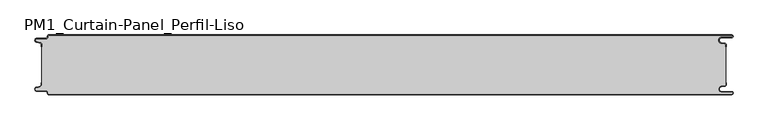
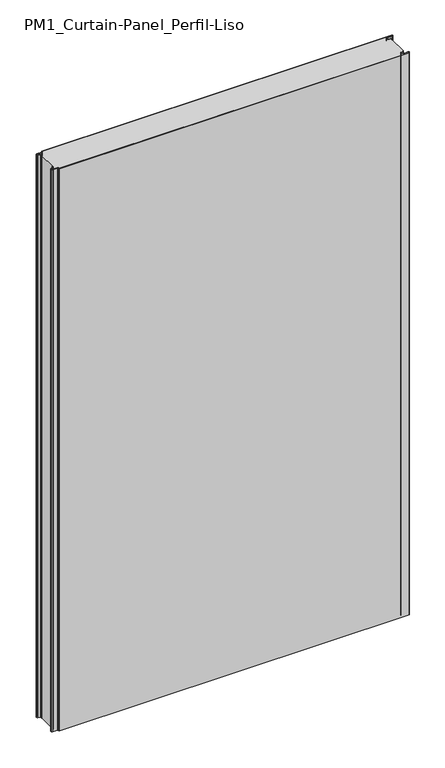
"""IFC4 building model written with IfcOpenShell, lengths in millimetres: plate geometry, PM1_Curtain-Panel_Perfil-Liso : ACH_PM1_Panel-Acústico-Sectorización_100M."""

import ifcopenshell
import ifcopenshell.guid

model = None  # the IFC model being written
_history = None  # IfcOwnerHistory: only IFC2X3 demands one
_inside = {}  # id of a spatial element -> (the spatial element, [elements in it])
_under = {}  # id of a project, library or spatial element -> (it, [spatial elements below it])
_declared = {}  # id of a project -> (the project, [libraries it declares])
_typed = {}  # id of a type object -> (the type object, [elements of that type])
_made_of = {}  # id of a material, layer set ... -> (it, [elements and type objects made of it])


def new_model(schema):
    """Start an empty IFC model of exactly this schema.

    Asked for "IFC4X3", IfcOpenShell would pick the latest addendum, in which some entities
    have other attributes; the version numbers below select the first issue.
    IFC2X3 requires an IfcOwnerHistory on every rooted entity: one is made here for all.
    """
    global model, _history
    if schema == "IFC4X3":
        model = ifcopenshell.file(schema_version=(4, 3, 0, 0))
    else:
        model = ifcopenshell.file(schema=schema)
    _inside.clear()
    _under.clear()
    _declared.clear()
    _typed.clear()
    _made_of.clear()
    _history = None
    if model.schema == "IFC2X3":
        org = make("IfcOrganization", Name="unknown")
        user = make(
            "IfcPersonAndOrganization",
            ThePerson=make("IfcPerson", FamilyName="unknown"),
            TheOrganization=org,
        )
        app = make(
            "IfcApplication",
            ApplicationDeveloper=org,
            Version="unknown",
            ApplicationFullName="unknown",
            ApplicationIdentifier="unknown",
        )
        _history = make(
            "IfcOwnerHistory",
            OwningUser=user,
            OwningApplication=app,
            ChangeAction="ADDED",
            CreationDate=0,
        )
    return model


def make(cls, **values):
    """One entity of the class cls with the attributes given. An attribute that is None is left unset."""
    return model.create_entity(
        cls, **{name: value for name, value in values.items() if value is not None}
    )


def rooted(cls, **values):
    """An entity with a GlobalId (a new one), such as an element, a storey or a relation."""
    return make(cls, GlobalId=ifcopenshell.guid.new(), OwnerHistory=_history, **values)


def si_unit(unit_type, name, prefix=None):
    """IfcSIUnit, for example si_unit("LENGTHUNIT", "METRE", prefix="MILLI")."""
    return make("IfcSIUnit", UnitType=unit_type, Prefix=prefix, Name=name)


def assignment(units):
    """IfcUnitAssignment: the units of a project."""
    return None if units is None else make("IfcUnitAssignment", Units=units)


def point(xyz):
    """IfcCartesianPoint."""
    return None if xyz is None else make("IfcCartesianPoint", Coordinates=xyz)


def direction(xyz):
    """IfcDirection."""
    return None if xyz is None else make("IfcDirection", DirectionRatios=xyz)


def frame(location, z_axis=None, x_axis=None):
    """IfcAxis2Placement3D, a coordinate frame: its origin and axes. An axis left out is left unset."""
    return make(
        "IfcAxis2Placement3D",
        Location=point(location),
        Axis=direction(z_axis),
        RefDirection=direction(x_axis),
    )


def frame_2d(location, x_axis=None):
    """IfcAxis2Placement2D, a coordinate frame in the plane: its origin and x axis."""
    return make(
        "IfcAxis2Placement2D", Location=point(location), RefDirection=direction(x_axis)
    )


def origin():
    """The frame at (0, 0, 0) with its axes left unset."""
    return frame((0.0, 0.0, 0.0))


def origin_with_axes():
    """The frame at (0, 0, 0) with the z axis (0, 0, 1) and the x axis (1, 0, 0) written out."""
    return frame((0.0, 0.0, 0.0), z_axis=(0.0, 0.0, 1.0), x_axis=(1.0, 0.0, 0.0))


def place(relative_to, where):
    """IfcLocalPlacement: puts the frame where relative to a parent placement (None: the world)."""
    return make(
        "IfcLocalPlacement", PlacementRelTo=relative_to, RelativePlacement=where
    )


def context(
    kind, dimensions, precision=None, world=None, true_north=None, identifier=None
):
    """IfcGeometricRepresentationContext, for example the 3D "Model" context."""
    return make(
        "IfcGeometricRepresentationContext",
        ContextIdentifier=identifier,
        ContextType=kind,
        CoordinateSpaceDimension=dimensions,
        Precision=precision,
        WorldCoordinateSystem=world,
        TrueNorth=true_north,
    )


def project(units=None, contexts=None):
    """IfcProject with its units and contexts."""
    return rooted(
        "IfcProject",
        Name="project",
        RepresentationContexts=contexts,
        UnitsInContext=assignment(units),
    )


def spatial(cls, under=None, at=None, **own):
    """A site, building, storey or space (cls), placed at a placement, below another one or the project."""
    s = rooted(cls, ObjectPlacement=at, **own)
    if under is not None:
        _under.setdefault(under.id(), (under, []))[1].append(s)
    return s


def polyline(points):
    """IfcPolyline through the points."""
    return make("IfcPolyline", Points=[point(p) for p in points])


def circle_curve(where, radius):
    """IfcCircle in the frame where."""
    return make("IfcCircle", Position=where, Radius=radius)


def trimmed(basis, trim1, trim2, sense, master):
    """IfcTrimmedCurve: the piece of a basis curve between two trims."""
    return make(
        "IfcTrimmedCurve",
        BasisCurve=basis,
        Trim1=trim1,
        Trim2=trim2,
        SenseAgreement=sense,
        MasterRepresentation=master,
    )


def segment(curve, same_sense, transition):
    """IfcCompositeCurveSegment."""
    return make(
        "IfcCompositeCurveSegment",
        Transition=transition,
        SameSense=same_sense,
        ParentCurve=curve,
    )


def composite_curve(segments, self_intersect=None):
    """IfcCompositeCurve: segments joined end to end."""
    return make("IfcCompositeCurve", Segments=segments, SelfIntersect=self_intersect)


def outline(outer, holes=None, kind="AREA"):
    """IfcArbitraryClosedProfileDef: a profile drawn as a closed curve; with holes, ...WithVoids."""
    if holes is None:
        return make("IfcArbitraryClosedProfileDef", ProfileType=kind, OuterCurve=outer)
    return make(
        "IfcArbitraryProfileDefWithVoids",
        ProfileType=kind,
        OuterCurve=outer,
        InnerCurves=holes,
    )


def extrude(swept, where, along, depth):
    """IfcExtrudedAreaSolid: the profile swept, set in the frame where, extruded along a direction by depth."""
    return make(
        "IfcExtrudedAreaSolid",
        SweptArea=swept,
        Position=where,
        ExtrudedDirection=direction(along),
        Depth=depth,
    )


def shape(context_of_items, identifier, shape_type, items):
    """IfcShapeRepresentation: the items that make up one representation, for example the "Body"."""
    return make(
        "IfcShapeRepresentation",
        ContextOfItems=context_of_items,
        RepresentationIdentifier=identifier,
        RepresentationType=shape_type,
        Items=items,
    )


def source(mapping_origin, context_of_items, identifier, shape_type, items):
    """IfcRepresentationMap: a shape defined once, which mapped items show again and again."""
    return make(
        "IfcRepresentationMap",
        MappingOrigin=mapping_origin,
        MappedRepresentation=shape(context_of_items, identifier, shape_type, items),
    )


def transform(
    local_origin,
    x_axis=None,
    y_axis=None,
    z_axis=None,
    scale=None,
    scale2=None,
    scale3=None,
    uniform=True,
):
    """IfcCartesianTransformationOperator3D, or its non-uniform kind. x_axis, y_axis, z_axis: its Axis1, 2, 3."""
    if uniform:
        return make(
            "IfcCartesianTransformationOperator3D",
            Axis1=direction(x_axis),
            Axis2=direction(y_axis),
            LocalOrigin=point(local_origin),
            Scale=scale,
            Axis3=direction(z_axis),
        )
    return make(
        "IfcCartesianTransformationOperator3DnonUniform",
        Axis1=direction(x_axis),
        Axis2=direction(y_axis),
        LocalOrigin=point(local_origin),
        Scale=scale,
        Axis3=direction(z_axis),
        Scale2=scale2,
        Scale3=scale3,
    )


def mapped(mapping_source, mapping_target):
    """IfcMappedItem: shows the shape of a source again, moved by a transform."""
    return make(
        "IfcMappedItem", MappingSource=mapping_source, MappingTarget=mapping_target
    )


def made_of(thing, what):
    """Note that an element or type object is made of a material, layer set ...; save() writes the relation."""
    if what is not None:
        _made_of.setdefault(what.id(), (what, []))[1].append(thing)
    return thing


def element(
    cls,
    number,
    at=None,
    inside=None,
    cuts=None,
    type_object=None,
    material=None,
    context=None,
    identifier="Body",
    shape_type=None,
    held_by="IfcProductDefinitionShape",
    body=None,
    shapes=None,
    **own,
):
    """One element of the class cls, such as IfcWall. Its Tag is "e" and its number.

    at: its placement. inside: the storey or other place that contains it. cuts: it is an
    opening in that element (IfcRelVoidsElement). A single representation is given by context,
    identifier, shape_type and body (its items); several are given by shapes. held_by: the class
    of the entity that holds the representations. save() writes the other relations.
    """
    e = rooted(cls, Tag="e%d" % number, ObjectPlacement=at, **own)
    if body is not None:
        shapes = [shape(context, identifier, shape_type, body)]
    if shapes is not None:
        e.Representation = make(held_by, Representations=shapes)
    if inside is not None:
        _inside.setdefault(inside.id(), (inside, []))[1].append(e)
    if cuts is not None:
        rooted(
            "IfcRelVoidsElement", RelatingBuildingElement=cuts, RelatedOpeningElement=e
        )
    if type_object is not None:
        _typed.setdefault(type_object.id(), (type_object, []))[1].append(e)
    return made_of(e, material)


def aggregate(whole, parts):
    """IfcRelAggregates: a whole, such as a stair, and the parts it consists of."""
    return rooted("IfcRelAggregates", RelatingObject=whole, RelatedObjects=parts)


def save(model, path):
    """Write the relations noted so far, then the file.

    IfcRelAggregates (storeys below a building ...), IfcRelContainedInSpatialStructure (elements
    in a storey), IfcRelDefinesByType, IfcRelAssociatesMaterial and IfcRelDeclares: one each for
    every whole, place, type object, material and project.
    """
    for whole, parts in _under.values():
        aggregate(whole, parts)
    for where, things in _inside.values():
        rooted(
            "IfcRelContainedInSpatialStructure",
            RelatedElements=things,
            RelatingStructure=where,
        )
    for kind, things in _typed.values():
        rooted("IfcRelDefinesByType", RelatedObjects=things, RelatingType=kind)
    for what, things in _made_of.values():
        rooted("IfcRelAssociatesMaterial", RelatedObjects=things, RelatingMaterial=what)
    for by, libraries in _declared.values():
        rooted("IfcRelDeclares", RelatingContext=by, RelatedDefinitions=libraries)
    model.write(path)


def plane_surface(at):
    """IfcPlane: the flat surface through the origin of the frame at, square to its z axis."""
    return make("IfcPlane", Position=at)


def cylinder_surface(at, radius):
    """IfcCylindricalSurface: all points at the distance radius from the z axis of the frame at."""
    return make("IfcCylindricalSurface", Position=at, Radius=radius)


def revolved_surface(curve, axis_point, axis_direction):
    """IfcSurfaceOfRevolution: the curve turned about the line through axis_point along axis_direction."""
    return make(
        "IfcSurfaceOfRevolution",
        SweptCurve=make("IfcArbitraryOpenProfileDef", ProfileType="CURVE", Curve=curve),
        AxisPosition=make("IfcAxis1Placement", Location=point(axis_point), Axis=direction(axis_direction)),
    )


def advanced_brep(points, edges, surfaces, faces):
    """IfcAdvancedBrep: a solid bounded by faces that lie on surfaces and meet in shared edges.

    An edge is (start, end): straight between two places in points (the first is 0);
    or (start, end, curve); or (start, end, curve, False) where it runs against its curve.
    A face is (place in surfaces, loops), or (place, loops, False) where it looks against
    its surface's normal. A loop lists edges by number (the first is 1), with a minus sign
    where the edge is run from its end to its start. The first loop is the outer one.
    """
    corners = [point(p) for p in points]
    vertices = [make("IfcVertexPoint", VertexGeometry=c) for c in corners]
    made = []
    for start, end, *more in edges:
        made.append(
            make(
                "IfcEdgeCurve",
                EdgeStart=vertices[start],
                EdgeEnd=vertices[end],
                EdgeGeometry=more[0] if more else make("IfcPolyline", Points=[corners[start], corners[end]]),
                SameSense=more[1] if len(more) > 1 else True,
            )
        )
    hull = []
    for where, loops, *sense in faces:
        bounds = []
        for j, loop in enumerate(loops):
            ring = [make("IfcOrientedEdge", EdgeElement=made[abs(k) - 1], Orientation=k > 0) for k in loop]
            bounds.append(
                make(
                    "IfcFaceOuterBound" if j == 0 else "IfcFaceBound",
                    Bound=make("IfcEdgeLoop", EdgeList=ring),
                    Orientation=True,
                )
            )
        hull.append(make("IfcAdvancedFace", Bounds=bounds, FaceSurface=surfaces[where], SameSense=sense[0] if sense else True))
    return make("IfcAdvancedBrep", Outer=make("IfcClosedShell", CfsFaces=hull))


def pm1_curtain_panel_perfil_liso_b2dca893(model_context):
    return source(origin(), model_context, "Body", "SolidModel", [
        advanced_brep(
        [(583.1, 0.0, 1945.7507136), (-562.4, 0.0, 1945.7507136), (-564.4, -2.0, 1945.7507136), (-564.4, -3.4, 1945.7507136), (-566.4, -5.4, 1945.7507136), (-581.9, -5.4, 1945.7507136), (-582.7098239, -12.5077322, 1945.7507136), (-576.5500979, -13.929817, 1945.7507136), (-575.0, -15.878557, 1945.7507136), (-575.0, -20.0, 1945.7507136), (-574.2, -20.0, 1945.7507136), (-574.2, -15.878557, 1945.7507136), (-576.370137, -13.1503208, 1945.7507136), (-582.529863, -11.728236, 1945.7507136), (-581.9, -6.2, 1945.7507136), (-566.4, -6.2, 1945.7507136), (-563.6, -3.4, 1945.7507136), (-563.6, -2.0, 1945.7507136), (-562.4, -0.8, 1945.7507136), (583.1, -0.8, 1945.7507136), (583.1, -4.2, 1945.7507136), (566.1, -4.2, 1945.7507136), (565.266489, -13.7270773, 1945.7507136), (571.7125666, -14.8636942, 1945.7507136), (573.2, -16.636348, 1945.7507136), (573.2, -20.0, 1945.7507136), (574.0, -20.0, 1945.7507136), (574.0, -16.636348, 1945.7507136), (571.8514851, -14.0758478, 1945.7507136), (565.4054075, -12.9392309, 1945.7507136), (566.1, -5.0, 1945.7507136), (583.1, -5.0, 1945.7507136), (585.6, -2.5, 1945.7507136), (-562.4, 0.0, 0.0), (583.1, 0.0, 0.0), (585.6, -2.5, 0.0), (583.1, -5.0, 0.0), (566.1, -5.0, 0.0), (565.4054075, -12.939231, 0.0), (571.8514851, -14.075848, 0.0), (574.0, -16.636348, 0.0), (574.0, -20.0, 0.0), (573.2, -20.0, 0.0), (573.2, -16.636348, 0.0), (571.7125666, -14.863694, 0.0), (565.266489, -13.7270771, 0.0), (566.1, -4.2, 0.0), (583.1, -4.2, 0.0), (583.1, -0.8, 0.0), (-562.4, -0.8, 0.0), (-563.6, -2.0, 0.0), (-563.6, -3.4, 0.0), (-566.4, -6.2, 0.0), (-581.9, -6.2, 0.0), (-582.529863, -11.7282362, 0.0), (-576.370137, -13.150321, 0.0), (-574.2, -15.878557, 0.0), (-574.2, -20.0, 0.0), (-575.0, -20.0, 0.0), (-575.0, -15.878557, 0.0), (-576.5500978, -13.9298169, 0.0), (-582.7098239, -12.507732, 0.0), (-581.9, -5.4, 0.0), (-566.4, -5.4, 0.0), (-564.4, -3.4, 0.0), (-564.4, -2.0, 0.0)],
        [
            (0, 1),
            (1, 2, circle_curve(frame((-562.4, -2.0, 1945.7507136), z_axis=(0.0, 0.0, 1.0), x_axis=(1.0, 0.0, 0.0)), 2.0)),
            (2, 3),
            (3, 4, circle_curve(frame((-566.4, -3.4, 1945.7507136), z_axis=(0.0, 0.0, -1.0), x_axis=(1.0, 0.0, 0.0)), 2.0)),
            (4, 5),
            (5, 6, circle_curve(frame((-581.9, -9.0, 1945.7507136), z_axis=(0.0, 0.0, 1.0), x_axis=(1.0, 0.0, 0.0)), 3.6)),
            (6, 7),
            (7, 8, circle_curve(frame((-577.0, -15.878557, 1945.7507136), z_axis=(0.0, 0.0, -1.0), x_axis=(1.0, 0.0, 0.0)), 2.0)),
            (8, 9),
            (9, 10),
            (10, 11),
            (11, 12, circle_curve(frame((-577.0, -15.878557, 1945.7507136), z_axis=(0.0, 0.0, 1.0), x_axis=(1.0, 0.0, 0.0)), 2.8)),
            (12, 13),
            (13, 14, circle_curve(frame((-581.9, -9.0, 1945.7507136), z_axis=(0.0, 0.0, -1.0), x_axis=(1.0, 0.0, 0.0)), 2.8)),
            (14, 15),
            (15, 16, circle_curve(frame((-566.4, -3.4, 1945.7507136), z_axis=(0.0, 0.0, 1.0), x_axis=(1.0, 0.0, 0.0)), 2.8)),
            (16, 17),
            (17, 18, circle_curve(frame((-562.4, -2.0, 1945.7507136), z_axis=(0.0, 0.0, -1.0), x_axis=(1.0, 0.0, 0.0)), 1.2)),
            (18, 19),
            (19, 20, circle_curve(frame((583.1, -2.5, 1945.7507136), z_axis=(0.0, 0.0, -1.0), x_axis=(1.0, 0.0, 0.0)), 1.7)),
            (20, 21),
            (21, 22, circle_curve(frame((566.1, -9.0, 1945.7507136), z_axis=(0.0, 0.0, 1.0), x_axis=(1.0, 0.0, 0.0)), 4.8)),
            (22, 23),
            (23, 24, circle_curve(frame((571.4, -16.636348, 1945.7507136), z_axis=(0.0, 0.0, -1.0), x_axis=(1.0, 0.0, 0.0)), 1.8)),
            (24, 25),
            (25, 26),
            (26, 27),
            (27, 28, circle_curve(frame((571.4, -16.636348, 1945.7507136), z_axis=(0.0, 0.0, 1.0), x_axis=(1.0, 0.0, 0.0)), 2.6)),
            (28, 29),
            (29, 30, circle_curve(frame((566.1, -9.0, 1945.7507136), z_axis=(0.0, 0.0, -1.0), x_axis=(1.0, 0.0, 0.0)), 4.0)),
            (30, 31),
            (31, 32, circle_curve(frame((583.1, -2.5, 1945.7507136), z_axis=(0.0, 0.0, 1.0), x_axis=(1.0, 0.0, 0.0)), 2.5)),
            (32, 0, circle_curve(frame((583.1, -2.5, 1945.7507136), z_axis=(0.0, 0.0, 1.0), x_axis=(1.0, 0.0, 0.0)), 2.5)),
            (33, 34),
            (34, 35, circle_curve(frame((583.1, -2.5, 0.0), z_axis=(0.0, 0.0, -1.0), x_axis=(1.0, 0.0, 0.0)), 2.5)),
            (35, 36, circle_curve(frame((583.1, -2.5, 0.0), z_axis=(0.0, 0.0, -1.0), x_axis=(1.0, 0.0, 0.0)), 2.5)),
            (36, 37),
            (37, 38, circle_curve(frame((566.1, -9.0, 0.0), z_axis=(0.0, 0.0, 1.0), x_axis=(1.0, 0.0, 0.0)), 4.0)),
            (38, 39),
            (39, 40, circle_curve(frame((571.4, -16.636348, 0.0), z_axis=(0.0, 0.0, -1.0), x_axis=(1.0, 0.0, 0.0)), 2.6)),
            (40, 41),
            (41, 42),
            (42, 43),
            (43, 44, circle_curve(frame((571.4, -16.636348, 0.0), z_axis=(0.0, 0.0, 1.0), x_axis=(1.0, 0.0, 0.0)), 1.8)),
            (44, 45),
            (45, 46, circle_curve(frame((566.1, -9.0, 0.0), z_axis=(0.0, 0.0, -1.0), x_axis=(1.0, 0.0, 0.0)), 4.8)),
            (46, 47),
            (47, 48, circle_curve(frame((583.1, -2.5, 0.0), z_axis=(0.0, 0.0, 1.0), x_axis=(1.0, 0.0, 0.0)), 1.7)),
            (48, 49),
            (49, 50, circle_curve(frame((-562.4, -2.0, 0.0), z_axis=(0.0, 0.0, 1.0), x_axis=(1.0, 0.0, 0.0)), 1.2)),
            (50, 51),
            (51, 52, circle_curve(frame((-566.4, -3.4, 0.0), z_axis=(0.0, 0.0, -1.0), x_axis=(1.0, 0.0, 0.0)), 2.8)),
            (52, 53),
            (53, 54, circle_curve(frame((-581.9, -9.0, 0.0), z_axis=(0.0, 0.0, 1.0), x_axis=(1.0, 0.0, 0.0)), 2.8)),
            (54, 55),
            (55, 56, circle_curve(frame((-577.0, -15.878557, 0.0), z_axis=(0.0, 0.0, -1.0), x_axis=(1.0, 0.0, 0.0)), 2.8)),
            (56, 57),
            (57, 58),
            (58, 59),
            (59, 60, circle_curve(frame((-577.0, -15.878557, 0.0), z_axis=(0.0, 0.0, 1.0), x_axis=(1.0, 0.0, 0.0)), 2.0)),
            (60, 61),
            (61, 62, circle_curve(frame((-581.9, -9.0, 0.0), z_axis=(0.0, 0.0, -1.0), x_axis=(1.0, 0.0, 0.0)), 3.6)),
            (62, 63),
            (63, 64, circle_curve(frame((-566.4, -3.4, 0.0), z_axis=(0.0, 0.0, 1.0), x_axis=(1.0, 0.0, 0.0)), 2.0)),
            (64, 65),
            (65, 33, circle_curve(frame((-562.4, -2.0, 0.0), z_axis=(0.0, 0.0, -1.0), x_axis=(1.0, 0.0, 0.0)), 2.0)),
            (1, 33),
            (65, 2),
            (64, 3),
            (63, 4),
            (62, 5),
            (61, 6),
            (60, 7),
            (59, 8),
            (58, 9),
            (57, 10),
            (56, 11),
            (55, 12),
            (54, 13),
            (53, 14),
            (52, 15),
            (51, 16),
            (50, 17),
            (49, 18),
            (48, 19),
            (47, 20),
            (46, 21),
            (45, 22),
            (44, 23),
            (43, 24),
            (42, 25),
            (41, 26),
            (40, 27),
            (39, 28),
            (38, 29),
            (37, 30),
            (36, 31),
            (34, 0),
        ],
        [
            plane_surface(frame((-575.0, 0.0, 1945.7507136), z_axis=(0.0, 0.0, 1.0), x_axis=(0.0, 1.0, 0.0))),
            plane_surface(frame((-575.0, 0.0, 0.0), z_axis=(0.0, 0.0, -1.0), x_axis=(0.0, 1.0, 0.0))),
            cylinder_surface(frame((-562.4, -2.0, 1945.7507136), z_axis=(0.0, 0.0, 1.0), x_axis=(1.0, 0.0, 0.0)), 2.0),
            plane_surface(frame((-564.4, -2.0, 1945.7507136), z_axis=(-1.0, 0.0, 0.0), x_axis=(0.0, 0.0, -1.0))),
            revolved_surface(polyline([(-564.4, -3.4, 0.0), (-564.4, -3.4, 1945.7507136)]), (-566.4, -3.4, 1945.7507136), (0.0, 0.0, -1.0)),
            plane_surface(frame((-566.4, -5.4, 1945.7507136), z_axis=(0.0, 1.0, 0.0), x_axis=(0.0, 0.0, -1.0))),
            cylinder_surface(frame((-581.9, -9.0, 1945.7507136), z_axis=(0.0, 0.0, 1.0), x_axis=(1.0, 0.0, 0.0)), 3.6),
            plane_surface(frame((-582.7098239, -12.507732, 1945.7507136), z_axis=(-0.2249510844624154, -0.9743700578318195, 0.0), x_axis=(0.0, 0.0, -1.0))),
            revolved_surface(polyline([(-575.0, -15.878557, 0.0), (-575.0, -15.878557, 1945.7507136)]), (-577.0, -15.878557, 1945.7507136), (0.0, 0.0, -1.0)),
            plane_surface(frame((-575.0, -15.878557, 1945.7507136), z_axis=(-1.0, 0.0, 0.0), x_axis=(0.0, 0.0, -1.0))),
            plane_surface(frame((-575.0, -20.0, 1945.7507136), z_axis=(0.0, -1.0, 0.0), x_axis=(0.0, 0.0, -1.0))),
            plane_surface(frame((-574.2, -20.0, 1945.7507136), z_axis=(1.0, 0.0, 0.0), x_axis=(0.0, 0.0, -1.0))),
            cylinder_surface(frame((-577.0, -15.878557, 1945.7507136), z_axis=(0.0, 0.0, 1.0), x_axis=(1.0, 0.0, 0.0)), 2.8),
            plane_surface(frame((-576.370137, -13.150321, 1945.7507136), z_axis=(0.22495108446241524, 0.9743700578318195, 0.0), x_axis=(0.0, 0.0, -1.0))),
            revolved_surface(polyline([(-579.1, -9.0, 0.0), (-579.1, -9.0, 1945.7507136)]), (-581.9, -9.0, 1945.7507136), (0.0, 0.0, -1.0)),
            plane_surface(frame((-581.9, -6.2, 1945.7507136), z_axis=(0.0, -1.0, 0.0), x_axis=(0.0, 0.0, -1.0))),
            cylinder_surface(frame((-566.4, -3.4, 1945.7507136), z_axis=(0.0, 0.0, 1.0), x_axis=(1.0, 0.0, 0.0)), 2.8),
            plane_surface(frame((-563.6, -3.4, 1945.7507136), z_axis=(1.0, 0.0, 0.0), x_axis=(0.0, 0.0, -1.0))),
            revolved_surface(polyline([(-561.1999999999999, -2.0, 0.0), (-561.1999999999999, -2.0, 1945.7507136)]), (-562.4, -2.0, 1945.7507136), (0.0, 0.0, -1.0)),
            plane_surface(frame((560.890897, -0.8, 1945.7507136), z_axis=(0.0, -1.0, 0.0), x_axis=(0.0, 0.0, -1.0))),
            revolved_surface(polyline([(584.8000000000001, -2.5, 0.0), (584.8000000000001, -2.5, 1945.7507136)]), (583.1, -2.5, 1945.7507136), (0.0, 0.0, -1.0)),
            plane_surface(frame((583.1, -4.2, 1945.7507136), z_axis=(0.0, 1.0, 0.0), x_axis=(0.0, 0.0, -1.0))),
            cylinder_surface(frame((566.1, -9.0, 1945.7507136), z_axis=(0.0, 0.0, 1.0), x_axis=(1.0, 0.0, 0.0)), 4.8),
            plane_surface(frame((565.266489, -13.7270771, 1945.7507136), z_axis=(-0.1736481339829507, -0.9848077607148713, 0.0), x_axis=(0.0, 0.0, -1.0))),
            revolved_surface(polyline([(573.1999999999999, -16.636348, 0.0), (573.1999999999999, -16.636348, 1945.7507136)]), (571.4, -16.636348, 1945.7507136), (0.0, 0.0, -1.0)),
            plane_surface(frame((573.2, -16.636348, 1945.7507136), z_axis=(-1.0, 0.0, 0.0), x_axis=(0.0, 0.0, -1.0))),
            plane_surface(frame((573.2, -20.0, 1945.7507136), z_axis=(0.0, -1.0, 0.0), x_axis=(0.0, 0.0, -1.0))),
            plane_surface(frame((574.0, -20.0, 1945.7507136), z_axis=(1.0, 0.0, 0.0), x_axis=(0.0, 0.0, -1.0))),
            cylinder_surface(frame((571.4, -16.636348, 1945.7507136), z_axis=(0.0, 0.0, 1.0), x_axis=(1.0, 0.0, 0.0)), 2.6),
            plane_surface(frame((571.8514851, -14.075848, 1945.7507136), z_axis=(0.17364813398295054, 0.9848077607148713, 0.0), x_axis=(0.0, 0.0, -1.0))),
            revolved_surface(polyline([(570.1, -9.0, 0.0), (570.1, -9.0, 1945.7507136)]), (566.1, -9.0, 1945.7507136), (0.0, 0.0, -1.0)),
            plane_surface(frame((566.1, -5.0, 1945.7507136), z_axis=(0.0, -1.0, 0.0), x_axis=(0.0, 0.0, -1.0))),
            cylinder_surface(frame((583.1, -2.5, 1945.7507136), z_axis=(0.0, 0.0, 1.0), x_axis=(1.0, 0.0, 0.0)), 2.5),
            plane_surface(frame((510.5961529, 0.0, 1945.7507136), z_axis=(0.0, 1.0, 0.0), x_axis=(0.0, 0.0, -1.0))),
        ],
        [
            (0, [[1, 2, 3, 4, 5, 6, 7, 8, 9, 10, 11, 12, 13, 14, 15, 16, 17, 18, 19, 20, 21, 22, 23, 24, 25, 26, 27, 28, 29, 30, 31, 32, 33]]),
            (1, [[34, 35, 36, 37, 38, 39, 40, 41, 42, 43, 44, 45, 46, 47, 48, 49, 50, 51, 52, 53, 54, 55, 56, 57, 58, 59, 60, 61, 62, 63, 64, 65, 66]]),
            (2, [[-2, 67, -66, 68]]),
            (3, [[-3, -68, -65, 69]]),
            (4, [[-4, -69, -64, 70]]),
            (5, [[-5, -70, -63, 71]]),
            (6, [[-6, -71, -62, 72]]),
            (7, [[-7, -72, -61, 73]]),
            (8, [[-8, -73, -60, 74]]),
            (9, [[-9, -74, -59, 75]]),
            (10, [[-10, -75, -58, 76]]),
            (11, [[-11, -76, -57, 77]]),
            (12, [[-12, -77, -56, 78]]),
            (13, [[-13, -78, -55, 79]]),
            (14, [[-14, -79, -54, 80]]),
            (15, [[-15, -80, -53, 81]]),
            (16, [[-16, -81, -52, 82]]),
            (17, [[-17, -82, -51, 83]]),
            (18, [[-18, -83, -50, 84]]),
            (19, [[-19, -84, -49, 85]]),
            (20, [[-20, -85, -48, 86]]),
            (21, [[-21, -86, -47, 87]]),
            (22, [[-22, -87, -46, 88]]),
            (23, [[-23, -88, -45, 89]]),
            (24, [[-24, -89, -44, 90]]),
            (25, [[-25, -90, -43, 91]]),
            (26, [[-26, -91, -42, 92]]),
            (27, [[-27, -92, -41, 93]]),
            (28, [[-28, -93, -40, 94]]),
            (29, [[-29, -94, -39, 95]]),
            (30, [[-30, -95, -38, 96]]),
            (31, [[-31, -96, -37, 97]]),
            (32, [[-97, -36, -35, 98, -33, -32]]),
            (33, [[-1, -98, -34, -67]]),
        ],
    ),
        extrude(outline(composite_curve([segment(polyline([(-574.2, -84.1214426), (-574.2, -15.8785573)]), True, "CONTINUOUS"), segment(trimmed(circle_curve(frame_2d((-577.0, -15.8785573)), 2.8), [point((-574.2, -15.8785573))], [point((-576.370137, -13.1503212))], True, "CARTESIAN"), True, "CONTINUOUS"), segment(polyline([(-576.370137, -13.1503212), (-582.5298631, -11.7282362)]), True, "CONTINUOUS"), segment(trimmed(circle_curve(frame_2d((-581.9, -9.0)), 2.8), [point((-582.5298631, -11.7282362))], [point((-581.9, -6.2))], False, "CARTESIAN"), True, "CONTINUOUS"), segment(polyline([(-581.9, -6.2), (-566.4000001, -6.2)]), True, "CONTINUOUS"), segment(trimmed(circle_curve(frame_2d((-566.4000001, -3.4)), 2.8), [point((-566.4000001, -6.2))], [point((-563.6000001, -3.4))], True, "CARTESIAN"), True, "CONTINUOUS"), segment(polyline([(-563.6000001, -3.4), (-563.6000001, -2.0)]), True, "CONTINUOUS"), segment(trimmed(circle_curve(frame_2d((-562.4000001, -2.0)), 1.2), [point((-563.6000001, -2.0))], [point((-562.4000001, -0.8))], False, "CARTESIAN"), True, "CONTINUOUS"), segment(polyline([(-562.4000001, -0.8), (583.1, -0.8)]), True, "CONTINUOUS"), segment(trimmed(circle_curve(frame_2d((583.1, -2.5)), 1.7), [point((583.1, -0.8))], [point((583.1, -4.2))], False, "CARTESIAN"), True, "CONTINUOUS"), segment(polyline([(583.1, -4.2), (566.1, -4.2)]), True, "CONTINUOUS"), segment(trimmed(circle_curve(frame_2d((566.1, -9.0)), 4.8), [point((566.1, -4.2))], [point((565.2664883, -13.7270771))], True, "CARTESIAN"), True, "CONTINUOUS"), segment(polyline([(565.2664883, -13.7270771), (571.7125668, -14.8636953)]), True, "CONTINUOUS"), segment(trimmed(circle_curve(frame_2d((571.4, -16.6363492)), 1.8), [point((571.7125668, -14.8636953))], [point((573.2, -16.6363492))], False, "CARTESIAN"), True, "CONTINUOUS"), segment(polyline([(573.2, -16.6363492), (573.2, -83.3636508)]), True, "CONTINUOUS"), segment(trimmed(circle_curve(frame_2d((571.4, -83.3636508)), 1.8), [point((573.2, -83.3636508))], [point((571.7125668, -85.1363047))], False, "CARTESIAN"), True, "CONTINUOUS"), segment(polyline([(571.7125668, -85.1363047), (565.2664883, -86.2729229)]), True, "CONTINUOUS"), segment(trimmed(circle_curve(frame_2d((566.1, -91.0)), 4.8), [point((565.2664883, -86.2729229))], [point((566.1, -95.8))], True, "CARTESIAN"), True, "CONTINUOUS"), segment(polyline([(566.1, -95.8), (583.1, -95.8)]), True, "CONTINUOUS"), segment(trimmed(circle_curve(frame_2d((583.1, -97.5)), 1.7), [point((583.1, -95.8))], [point((583.1, -99.2))], False, "CARTESIAN"), True, "CONTINUOUS"), segment(polyline([(583.1, -99.2), (-562.4000001, -99.2)]), True, "CONTINUOUS"), segment(trimmed(circle_curve(frame_2d((-562.4000001, -98.0)), 1.2), [point((-562.4000001, -99.2))], [point((-563.6000001, -98.0))], False, "CARTESIAN"), True, "CONTINUOUS"), segment(polyline([(-563.6000001, -98.0), (-563.6000001, -96.6)]), True, "CONTINUOUS"), segment(trimmed(circle_curve(frame_2d((-566.4000001, -96.6)), 2.8), [point((-563.6000001, -96.6))], [point((-566.4000001, -93.8))], True, "CARTESIAN"), True, "CONTINUOUS"), segment(polyline([(-566.4000001, -93.8), (-581.9, -93.8)]), True, "CONTINUOUS"), segment(trimmed(circle_curve(frame_2d((-581.9, -91.0)), 2.8), [point((-581.9, -93.8))], [point((-582.5298631, -88.2717638))], False, "CARTESIAN"), True, "CONTINUOUS"), segment(polyline([(-582.5298631, -88.2717638), (-576.370137, -86.8496788)]), True, "CONTINUOUS"), segment(trimmed(circle_curve(frame_2d((-577.0, -84.1214426)), 2.8), [point((-576.370137, -86.8496788))], [point((-574.2, -84.1214426))], True, "CARTESIAN"), True, "CONTINUOUS")], self_intersect=False)), origin_with_axes(), (0.0, 0.0, 1.0), 1945.7507136),
        advanced_brep(
        [(-562.4, -100.0, 1945.7507136), (583.1, -100.0, 1945.7507136), (585.6, -97.5, 1945.7507136), (583.1, -95.0, 1945.7507136), (566.1, -95.0, 1945.7507136), (565.4054075, -87.060769, 1945.7507136), (571.8514851, -85.924152, 1945.7507136), (574.0, -83.363652, 1945.7507136), (574.0, -80.0, 1945.7507136), (573.2, -80.0, 1945.7507136), (573.2, -83.363652, 1945.7507136), (571.7125666, -85.136306, 1945.7507136), (565.266489, -86.2729229, 1945.7507136), (566.1, -95.8, 1945.7507136), (583.1, -95.8, 1945.7507136), (583.1, -99.2, 1945.7507136), (-562.4, -99.2, 1945.7507136), (-563.6, -98.0, 1945.7507136), (-563.6, -96.6, 1945.7507136), (-566.4, -93.8, 1945.7507136), (-581.9, -93.8, 1945.7507136), (-582.529863, -88.2717638, 1945.7507136), (-576.370137, -86.849679, 1945.7507136), (-574.2, -84.121443, 1945.7507136), (-574.2, -80.0, 1945.7507136), (-575.0, -80.0, 1945.7507136), (-575.0, -84.121443, 1945.7507136), (-576.5500978, -86.0701831, 1945.7507136), (-582.7098239, -87.492268, 1945.7507136), (-581.9, -94.6, 1945.7507136), (-566.4, -94.6, 1945.7507136), (-564.4, -96.6, 1945.7507136), (-564.4, -98.0, 1945.7507136), (583.1, -100.0, 0.0), (-562.4, -100.0, 0.0), (-564.4, -98.0, 0.0), (-564.4, -96.6, 0.0), (-566.4, -94.6, 0.0), (-581.9, -94.6, 0.0), (-582.7098239, -87.4922678, 0.0), (-576.5500979, -86.070183, 0.0), (-575.0, -84.121443, 0.0), (-575.0, -80.0, 0.0), (-574.2, -80.0, 0.0), (-574.2, -84.121443, 0.0), (-576.370137, -86.8496792, 0.0), (-582.529863, -88.271764, 0.0), (-581.9, -93.8, 0.0), (-566.4, -93.8, 0.0), (-563.6, -96.6, 0.0), (-563.6, -98.0, 0.0), (-562.4, -99.2, 0.0), (583.1, -99.2, 0.0), (583.1, -95.8, 0.0), (566.1, -95.8, 0.0), (565.266489, -86.2729227, 0.0), (571.7125666, -85.1363058, 0.0), (573.2, -83.363652, 0.0), (573.2, -80.0, 0.0), (574.0, -80.0, 0.0), (574.0, -83.363652, 0.0), (571.8514851, -85.9241522, 0.0), (565.4054075, -87.0607691, 0.0), (566.1, -95.0, 0.0), (583.1, -95.0, 0.0), (585.6, -97.5, 0.0)],
        [
            (0, 1),
            (1, 2, circle_curve(frame((583.1, -97.5, 1945.7507136), z_axis=(0.0, 0.0, 1.0), x_axis=(1.0, 0.0, 0.0)), 2.5)),
            (2, 3, circle_curve(frame((583.1, -97.5, 1945.7507136), z_axis=(0.0, 0.0, 1.0), x_axis=(1.0, 0.0, 0.0)), 2.5)),
            (3, 4),
            (4, 5, circle_curve(frame((566.1, -91.0, 1945.7507136), z_axis=(0.0, 0.0, -1.0), x_axis=(1.0, 0.0, 0.0)), 4.0)),
            (5, 6),
            (6, 7, circle_curve(frame((571.4, -83.363652, 1945.7507136), z_axis=(0.0, 0.0, 1.0), x_axis=(1.0, 0.0, 0.0)), 2.6)),
            (7, 8),
            (8, 9),
            (9, 10),
            (10, 11, circle_curve(frame((571.4, -83.363652, 1945.7507136), z_axis=(0.0, 0.0, -1.0), x_axis=(1.0, 0.0, 0.0)), 1.8)),
            (11, 12),
            (12, 13, circle_curve(frame((566.1, -91.0, 1945.7507136), z_axis=(0.0, 0.0, 1.0), x_axis=(1.0, 0.0, 0.0)), 4.8)),
            (13, 14),
            (14, 15, circle_curve(frame((583.1, -97.5, 1945.7507136), z_axis=(0.0, 0.0, -1.0), x_axis=(1.0, 0.0, 0.0)), 1.7)),
            (15, 16),
            (16, 17, circle_curve(frame((-562.4, -98.0, 1945.7507136), z_axis=(0.0, 0.0, -1.0), x_axis=(1.0, 0.0, 0.0)), 1.2)),
            (17, 18),
            (18, 19, circle_curve(frame((-566.4, -96.6, 1945.7507136), z_axis=(0.0, 0.0, 1.0), x_axis=(1.0, 0.0, 0.0)), 2.8)),
            (19, 20),
            (20, 21, circle_curve(frame((-581.9, -91.0, 1945.7507136), z_axis=(0.0, 0.0, -1.0), x_axis=(1.0, 0.0, 0.0)), 2.8)),
            (21, 22),
            (22, 23, circle_curve(frame((-577.0, -84.121443, 1945.7507136), z_axis=(0.0, 0.0, 1.0), x_axis=(1.0, 0.0, 0.0)), 2.8)),
            (23, 24),
            (24, 25),
            (25, 26),
            (26, 27, circle_curve(frame((-577.0, -84.121443, 1945.7507136), z_axis=(0.0, 0.0, -1.0), x_axis=(1.0, 0.0, 0.0)), 2.0)),
            (27, 28),
            (28, 29, circle_curve(frame((-581.9, -91.0, 1945.7507136), z_axis=(0.0, 0.0, 1.0), x_axis=(1.0, 0.0, 0.0)), 3.6)),
            (29, 30),
            (30, 31, circle_curve(frame((-566.4, -96.6, 1945.7507136), z_axis=(0.0, 0.0, -1.0), x_axis=(1.0, 0.0, 0.0)), 2.0)),
            (31, 32),
            (32, 0, circle_curve(frame((-562.4, -98.0, 1945.7507136), z_axis=(0.0, 0.0, 1.0), x_axis=(1.0, 0.0, 0.0)), 2.0)),
            (33, 34),
            (34, 35, circle_curve(frame((-562.4, -98.0, 0.0), z_axis=(0.0, 0.0, -1.0), x_axis=(1.0, 0.0, 0.0)), 2.0)),
            (35, 36),
            (36, 37, circle_curve(frame((-566.4, -96.6, 0.0), z_axis=(0.0, 0.0, 1.0), x_axis=(1.0, 0.0, 0.0)), 2.0)),
            (37, 38),
            (38, 39, circle_curve(frame((-581.9, -91.0, 0.0), z_axis=(0.0, 0.0, -1.0), x_axis=(1.0, 0.0, 0.0)), 3.6)),
            (39, 40),
            (40, 41, circle_curve(frame((-577.0, -84.121443, 0.0), z_axis=(0.0, 0.0, 1.0), x_axis=(1.0, 0.0, 0.0)), 2.0)),
            (41, 42),
            (42, 43),
            (43, 44),
            (44, 45, circle_curve(frame((-577.0, -84.121443, 0.0), z_axis=(0.0, 0.0, -1.0), x_axis=(1.0, 0.0, 0.0)), 2.8)),
            (45, 46),
            (46, 47, circle_curve(frame((-581.9, -91.0, 0.0), z_axis=(0.0, 0.0, 1.0), x_axis=(1.0, 0.0, 0.0)), 2.8)),
            (47, 48),
            (48, 49, circle_curve(frame((-566.4, -96.6, 0.0), z_axis=(0.0, 0.0, -1.0), x_axis=(1.0, 0.0, 0.0)), 2.8)),
            (49, 50),
            (50, 51, circle_curve(frame((-562.4, -98.0, 0.0), z_axis=(0.0, 0.0, 1.0), x_axis=(1.0, 0.0, 0.0)), 1.2)),
            (51, 52),
            (52, 53, circle_curve(frame((583.1, -97.5, 0.0), z_axis=(0.0, 0.0, 1.0), x_axis=(1.0, 0.0, 0.0)), 1.7)),
            (53, 54),
            (54, 55, circle_curve(frame((566.1, -91.0, 0.0), z_axis=(0.0, 0.0, -1.0), x_axis=(1.0, 0.0, 0.0)), 4.8)),
            (55, 56),
            (56, 57, circle_curve(frame((571.4, -83.363652, 0.0), z_axis=(0.0, 0.0, 1.0), x_axis=(1.0, 0.0, 0.0)), 1.8)),
            (57, 58),
            (58, 59),
            (59, 60),
            (60, 61, circle_curve(frame((571.4, -83.363652, 0.0), z_axis=(0.0, 0.0, -1.0), x_axis=(1.0, 0.0, 0.0)), 2.6)),
            (61, 62),
            (62, 63, circle_curve(frame((566.1, -91.0, 0.0), z_axis=(0.0, 0.0, 1.0), x_axis=(1.0, 0.0, 0.0)), 4.0)),
            (63, 64),
            (64, 65, circle_curve(frame((583.1, -97.5, 0.0), z_axis=(0.0, 0.0, -1.0), x_axis=(1.0, 0.0, 0.0)), 2.5)),
            (65, 33, circle_curve(frame((583.1, -97.5, 0.0), z_axis=(0.0, 0.0, -1.0), x_axis=(1.0, 0.0, 0.0)), 2.5)),
            (0, 34),
            (33, 1),
            (64, 3),
            (63, 4),
            (62, 5),
            (61, 6),
            (60, 7),
            (59, 8),
            (58, 9),
            (57, 10),
            (56, 11),
            (55, 12),
            (54, 13),
            (53, 14),
            (52, 15),
            (51, 16),
            (50, 17),
            (49, 18),
            (48, 19),
            (47, 20),
            (46, 21),
            (45, 22),
            (44, 23),
            (43, 24),
            (42, 25),
            (41, 26),
            (40, 27),
            (39, 28),
            (38, 29),
            (37, 30),
            (36, 31),
            (35, 32),
        ],
        [
            plane_surface(frame((-575.0, -100.0, 1945.7507136), z_axis=(0.0, 0.0, 1.0), x_axis=(0.0, 1.0, 0.0))),
            plane_surface(frame((-575.0, -100.0, 0.0), z_axis=(0.0, 0.0, -1.0), x_axis=(0.0, 1.0, 0.0))),
            plane_surface(frame((560.890897, -100.0, 1945.7507136), z_axis=(0.0, -1.0, 0.0), x_axis=(0.0, 0.0, -1.0))),
            cylinder_surface(frame((583.1, -97.5, 1945.7507136), z_axis=(0.0, 0.0, 1.0), x_axis=(1.0, 0.0, 0.0)), 2.5),
            plane_surface(frame((583.1, -95.0, 1945.7507136), z_axis=(0.0, 1.0, 0.0), x_axis=(0.0, 0.0, -1.0))),
            revolved_surface(polyline([(570.1, -91.0, 0.0), (570.1, -91.0, 1945.7507136)]), (566.1, -91.0, 1945.7507136), (0.0, 0.0, -1.0)),
            plane_surface(frame((565.4054075, -87.0607691, 1945.7507136), z_axis=(0.17364813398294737, -0.9848077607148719, 0.0), x_axis=(0.0, 0.0, -1.0))),
            cylinder_surface(frame((571.4, -83.363652, 1945.7507136), z_axis=(0.0, 0.0, 1.0), x_axis=(1.0, 0.0, 0.0)), 2.6),
            plane_surface(frame((574.0, -83.363652, 1945.7507136), z_axis=(1.0, 0.0, 0.0), x_axis=(0.0, 0.0, -1.0))),
            plane_surface(frame((574.0, -80.0, 1945.7507136), z_axis=(0.0, 1.0, 0.0), x_axis=(0.0, 0.0, -1.0))),
            plane_surface(frame((573.2, -80.0, 1945.7507136), z_axis=(-1.0, 0.0, 0.0), x_axis=(0.0, 0.0, -1.0))),
            revolved_surface(polyline([(573.1999999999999, -83.363652, 0.0), (573.1999999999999, -83.363652, 1945.7507136)]), (571.4, -83.363652, 1945.7507136), (0.0, 0.0, -1.0)),
            plane_surface(frame((571.7125666, -85.1363058, 1945.7507136), z_axis=(-0.17364813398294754, 0.9848077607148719, 0.0), x_axis=(0.0, 0.0, -1.0))),
            cylinder_surface(frame((566.1, -91.0, 1945.7507136), z_axis=(0.0, 0.0, 1.0), x_axis=(1.0, 0.0, 0.0)), 4.8),
            plane_surface(frame((566.1, -95.8, 1945.7507136), z_axis=(0.0, -1.0, 0.0), x_axis=(0.0, 0.0, -1.0))),
            revolved_surface(polyline([(584.8000000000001, -97.5, 0.0), (584.8000000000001, -97.5, 1945.7507136)]), (583.1, -97.5, 1945.7507136), (0.0, 0.0, -1.0)),
            plane_surface(frame((510.8105122, -99.2, 1945.7507136), z_axis=(0.0, 1.0, 0.0), x_axis=(0.0, 0.0, -1.0))),
            revolved_surface(polyline([(-561.1999999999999, -98.0, 0.0), (-561.1999999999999, -98.0, 1945.7507136)]), (-562.4, -98.0, 1945.7507136), (0.0, 0.0, -1.0)),
            plane_surface(frame((-563.6, -98.0, 1945.7507136), z_axis=(1.0, 0.0, 0.0), x_axis=(0.0, 0.0, -1.0))),
            cylinder_surface(frame((-566.4, -96.6, 1945.7507136), z_axis=(0.0, 0.0, 1.0), x_axis=(1.0, 0.0, 0.0)), 2.8),
            plane_surface(frame((-566.4, -93.8, 1945.7507136), z_axis=(0.0, 1.0, 0.0), x_axis=(0.0, 0.0, -1.0))),
            revolved_surface(polyline([(-579.1, -91.0, 0.0), (-579.1, -91.0, 1945.7507136)]), (-581.9, -91.0, 1945.7507136), (0.0, 0.0, -1.0)),
            plane_surface(frame((-582.529863, -88.271764, 1945.7507136), z_axis=(0.2249510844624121, -0.9743700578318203, 0.0), x_axis=(0.0, 0.0, -1.0))),
            cylinder_surface(frame((-577.0, -84.121443, 1945.7507136), z_axis=(0.0, 0.0, 1.0), x_axis=(1.0, 0.0, 0.0)), 2.8),
            plane_surface(frame((-574.2, -84.121443, 1945.7507136), z_axis=(1.0, 0.0, 0.0), x_axis=(0.0, 0.0, -1.0))),
            plane_surface(frame((-574.2, -80.0, 1945.7507136), z_axis=(0.0, 1.0, 0.0), x_axis=(0.0, 0.0, -1.0))),
            plane_surface(frame((-575.0, -80.0, 1945.7507136), z_axis=(-1.0, 0.0, 0.0), x_axis=(0.0, 0.0, -1.0))),
            revolved_surface(polyline([(-575.0, -84.121443, 0.0), (-575.0, -84.121443, 1945.7507136)]), (-577.0, -84.121443, 1945.7507136), (0.0, 0.0, -1.0)),
            plane_surface(frame((-576.5500979, -86.070183, 1945.7507136), z_axis=(-0.22495108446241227, 0.9743700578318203, 0.0), x_axis=(0.0, 0.0, -1.0))),
            cylinder_surface(frame((-581.9, -91.0, 1945.7507136), z_axis=(0.0, 0.0, 1.0), x_axis=(1.0, 0.0, 0.0)), 3.6),
            plane_surface(frame((-581.9, -94.6, 1945.7507136), z_axis=(0.0, -1.0, 0.0), x_axis=(0.0, 0.0, -1.0))),
            revolved_surface(polyline([(-564.4, -96.6, 0.0), (-564.4, -96.6, 1945.7507136)]), (-566.4, -96.6, 1945.7507136), (0.0, 0.0, -1.0)),
            plane_surface(frame((-564.4, -96.6, 1945.7507136), z_axis=(-1.0, 0.0, 0.0), x_axis=(0.0, 0.0, -1.0))),
            cylinder_surface(frame((-562.4, -98.0, 1945.7507136), z_axis=(0.0, 0.0, 1.0), x_axis=(1.0, 0.0, 0.0)), 2.0),
        ],
        [
            (0, [[1, 2, 3, 4, 5, 6, 7, 8, 9, 10, 11, 12, 13, 14, 15, 16, 17, 18, 19, 20, 21, 22, 23, 24, 25, 26, 27, 28, 29, 30, 31, 32, 33]]),
            (1, [[34, 35, 36, 37, 38, 39, 40, 41, 42, 43, 44, 45, 46, 47, 48, 49, 50, 51, 52, 53, 54, 55, 56, 57, 58, 59, 60, 61, 62, 63, 64, 65, 66]]),
            (2, [[-1, 67, -34, 68]]),
            (3, [[-68, -66, -65, 69, -3, -2]]),
            (4, [[-4, -69, -64, 70]]),
            (5, [[-5, -70, -63, 71]]),
            (6, [[-6, -71, -62, 72]]),
            (7, [[-7, -72, -61, 73]]),
            (8, [[-8, -73, -60, 74]]),
            (9, [[-9, -74, -59, 75]]),
            (10, [[-10, -75, -58, 76]]),
            (11, [[-11, -76, -57, 77]]),
            (12, [[-12, -77, -56, 78]]),
            (13, [[-13, -78, -55, 79]]),
            (14, [[-14, -79, -54, 80]]),
            (15, [[-15, -80, -53, 81]]),
            (16, [[-16, -81, -52, 82]]),
            (17, [[-17, -82, -51, 83]]),
            (18, [[-18, -83, -50, 84]]),
            (19, [[-19, -84, -49, 85]]),
            (20, [[-20, -85, -48, 86]]),
            (21, [[-21, -86, -47, 87]]),
            (22, [[-22, -87, -46, 88]]),
            (23, [[-23, -88, -45, 89]]),
            (24, [[-24, -89, -44, 90]]),
            (25, [[-25, -90, -43, 91]]),
            (26, [[-26, -91, -42, 92]]),
            (27, [[-27, -92, -41, 93]]),
            (28, [[-28, -93, -40, 94]]),
            (29, [[-29, -94, -39, 95]]),
            (30, [[-30, -95, -38, 96]]),
            (31, [[-31, -96, -37, 97]]),
            (32, [[-32, -97, -36, 98]]),
            (33, [[-33, -98, -35, -67]]),
        ],
    ),
    ])


if __name__ == "__main__":
    model = new_model("IFC4")
    model_context = context("Model", 3, world=origin())
    ifc_project = project(units=[si_unit("LENGTHUNIT", "METRE", prefix="MILLI")], contexts=[model_context])
    site = spatial("IfcSite", under=ifc_project)
    building = spatial("IfcBuilding", under=site)
    placement = place(None, origin())
    pm1_curtain_panel_perfil_liso_shape = pm1_curtain_panel_perfil_liso_b2dca893(model_context)
    element("IfcPlate", 1, ObjectType="PM1_Curtain-Panel_Perfil-Liso : ACH_PM1_Panel-Acústico-Sectorización_100M", at=placement, inside=building, context=model_context, shape_type="MappedRepresentation", body=[
        mapped(pm1_curtain_panel_perfil_liso_shape, transform((0.0, 0.0, 0.0), x_axis=(1.0, 0.0, 0.0), y_axis=(0.0, 1.0, 0.0), z_axis=(0.0, 0.0, 1.0))),
    ])
    save(model, "model.ifc")
